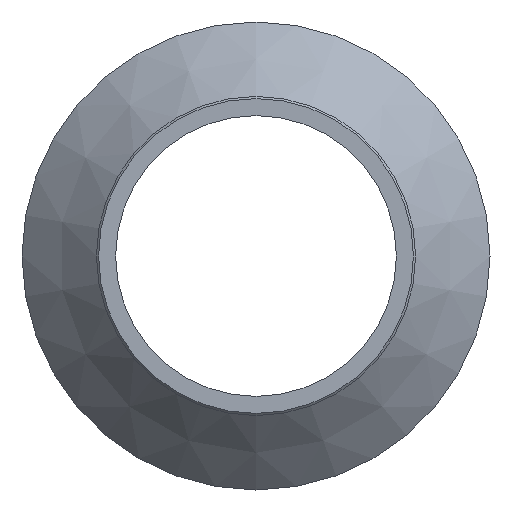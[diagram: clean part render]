
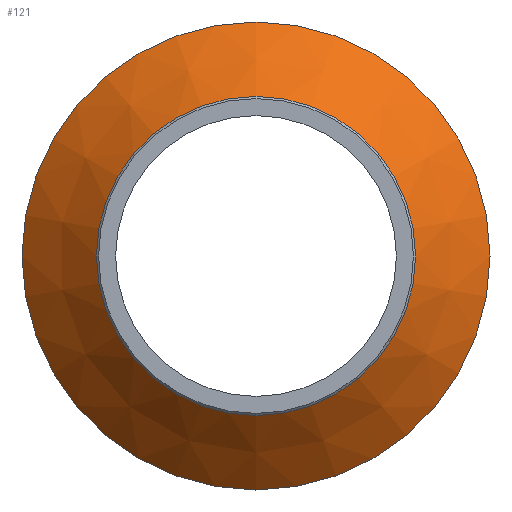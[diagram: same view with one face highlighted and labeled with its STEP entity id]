
A CAD part, left-side view. The second image highlights one B-rep face of the part: STEP entity #121.
In plain terms, the highlighted conical face has half-angle 45.83 degrees and reference radius 55 mm.
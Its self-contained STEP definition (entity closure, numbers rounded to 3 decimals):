
#22=CONICAL_SURFACE('',#146,55.,0.8);
#28=ORIENTED_EDGE('',*,*,#48,.F.);
#29=ORIENTED_EDGE('',*,*,#47,.T.);
#47=EDGE_CURVE('',#57,#57,#67,.T.);
#48=EDGE_CURVE('',#58,#58,#68,.T.);
#57=VERTEX_POINT('',#210);
#58=VERTEX_POINT('',#213);
#67=CIRCLE('',#145,55.);
#68=CIRCLE('',#147,37.5);
#78=EDGE_LOOP('',(#28));
#79=EDGE_LOOP('',(#29));
#98=FACE_BOUND('',#78,.T.);
#99=FACE_BOUND('',#79,.T.);
#121=ADVANCED_FACE('',(#98,#99),#22,.T.);
#145=AXIS2_PLACEMENT_3D('',#209,#169,#170);
#146=AXIS2_PLACEMENT_3D('',#211,#171,#172);
#147=AXIS2_PLACEMENT_3D('',#212,#173,#174);
#169=DIRECTION('',(-1.,0.,0.));
#170=DIRECTION('',(0.,0.,1.));
#171=DIRECTION('',(1.,0.,0.));
#172=DIRECTION('',(0.,0.,-1.));
#173=DIRECTION('',(-1.,0.,0.));
#174=DIRECTION('',(0.,0.,1.));
#209=CARTESIAN_POINT('',(8.5,0.,0.));
#210=CARTESIAN_POINT('',(8.5,0.,55.));
#211=CARTESIAN_POINT('',(8.5,0.,0.));
#212=CARTESIAN_POINT('',(-8.5,0.,0.));
#213=CARTESIAN_POINT('',(-8.5,0.,37.5));
